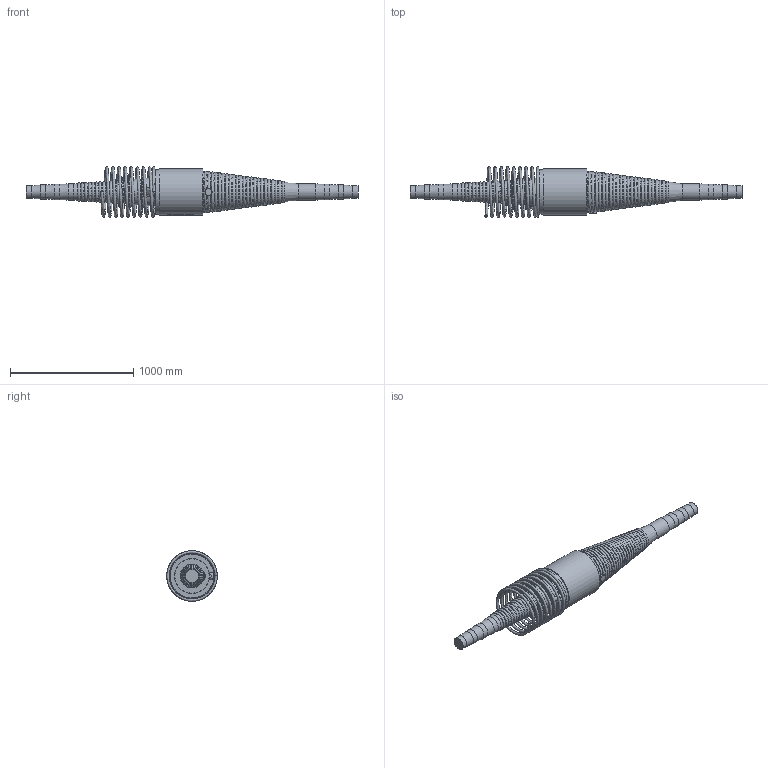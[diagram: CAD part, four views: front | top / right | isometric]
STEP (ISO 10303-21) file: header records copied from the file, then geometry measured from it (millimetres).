
FILE_DESCRIPTION(/* description */ (''),/* implementation_level */ '2;1');
FILE_NAME(/* name */ 'BBR VT CONA CMI BT 3106_Coupler H Assembly_CS-43,35_Helix.stp',/* time_stamp */ '2025-04-17T14:39:49+02:00',/* author */ ('tk'),/* organization */ (''),/* preprocessor_version */ 'ST-DEVELOPER v20',/* originating_system */ 'Autodesk Inventor 2024',/* authorisation */ '');
FILE_SCHEMA (('AUTOMOTIVE_DESIGN { 1 0 10303 214 3 1 1 }'));
Products named in the file (1): BBR VT CONA CMI BT 3106_Coupler H Assembly_CS-43,35_Helix
Bounding box: 2698.22 x 409.99 x 409.99 mm (x, y, z)
Volume: 111256496.5 mm3; surface area: 2737998.4 mm2
Topology: 2 solids, 2 shells, 1016 faces, 2622 edges, 1680 vertices
Faces by surface type: bspline 381, plane 349, torus 139, cylinder 96, cone 41, sphere 10
Full cylindrical faces by diameter (mm): 34 x1, 57 x1, 57.089 x1, 104 x2, 114 x2, 124 x2, 134 x2, 208 x1, 279 x1, 283 x1, 360 x1, 375 x1
Entity records: 46583 total; most frequent: CARTESIAN_POINT 22789, ORIENTED_EDGE 5236, DIRECTION 3865, EDGE_CURVE 2618, VERTEX_POINT 1680, AXIS2_PLACEMENT_3D 1397, EDGE_LOOP 1092, LINE 1071
